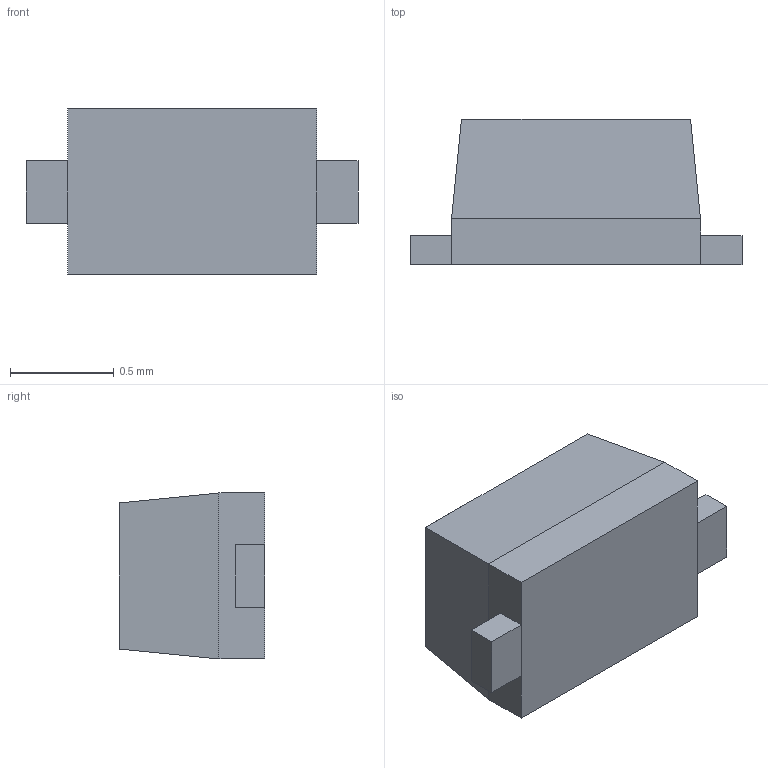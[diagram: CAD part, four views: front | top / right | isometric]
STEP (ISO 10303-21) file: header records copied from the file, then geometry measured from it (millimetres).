
FILE_DESCRIPTION (( 'STEP AP214' ), '1' );
FILE_NAME ( 'SODFL1608X70.STEP', '2014-04-11T12:31:21', ( '' ), ( '' ), 'FPX Expert 2013', 'PCB Libraries', '' );
FILE_SCHEMA (( 'AUTOMOTIVE_DESIGN' ));
Length unit declared in the file: millimetre
Products named in the file (1): SODFL1608X70
Bounding box: 1.6 x 0.7 x 0.8 mm (x, y, z)
Volume: 0.6 mm3; surface area: 5 mm2
Topology: 3 solids, 3 shells, 27 faces, 55 edges, 34 vertices
Faces by surface type: plane 27
Entity records: 828 total; most frequent: CARTESIAN_POINT 117, DIRECTION 111, ORIENTED_EDGE 110, VECTOR 55, LINE 55, EDGE_CURVE 55, VERTEX_POINT 34, STYLED_ITEM 31
